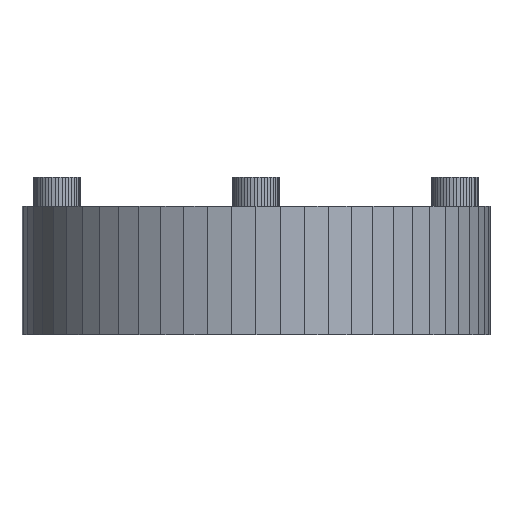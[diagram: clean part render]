
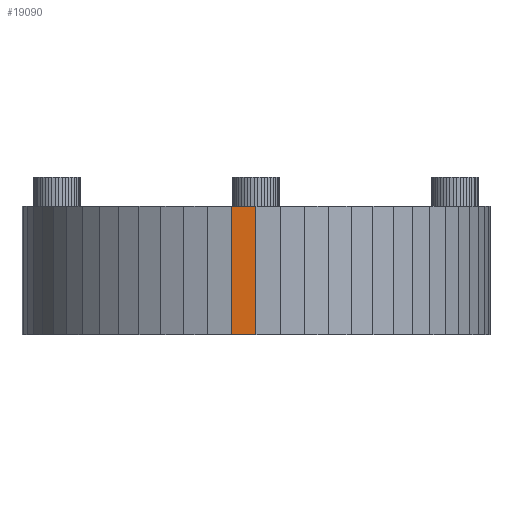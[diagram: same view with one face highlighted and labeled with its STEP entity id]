
A CAD part, left-side view. The second image highlights one B-rep face of the part: STEP entity #19090.
In plain terms, the highlighted planar face has unit normal (-0.999, 0.052, 0).
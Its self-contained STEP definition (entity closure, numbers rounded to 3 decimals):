
#126 = PLANE('',#127);
#127 = AXIS2_PLACEMENT_3D('',#128,#129,#130);
#128 = CARTESIAN_POINT('',(0.326,-16.638,0.));
#129 = DIRECTION('',(0.,0.,1.));
#130 = DIRECTION('',(1.,0.,-0.));
#18974 = PLANE('',#18975);
#18975 = AXIS2_PLACEMENT_3D('',#18976,#18977,#18978);
#18976 = CARTESIAN_POINT('',(0.151,-15.398,-22.));
#18977 = DIRECTION('',(-0.,-0.,-1.));
#18978 = DIRECTION('',(-1.,0.,0.));
#19090 = ADVANCED_FACE('',(#19091),#19105,.T.);
#19091 = FACE_BOUND('',#19092,.T.);
#19092 = EDGE_LOOP('',(#19093,#19128,#19151,#19179));
#19093 = ORIENTED_EDGE('',*,*,#19094,.T.);
#19094 = EDGE_CURVE('',#19095,#19097,#19099,.T.);
#19095 = VERTEX_POINT('',#19096);
#19096 = CARTESIAN_POINT('',(-39.781,4.181,0.));
#19097 = VERTEX_POINT('',#19098);
#19098 = CARTESIAN_POINT('',(-39.781,4.181,-22.));
#19099 = SURFACE_CURVE('',#19100,(#19104,#19116),.PCURVE_S1.);
#19100 = LINE('',#19101,#19102);
#19101 = CARTESIAN_POINT('',(-39.781,4.181,0.));
#19102 = VECTOR('',#19103,1.);
#19103 = DIRECTION('',(0.,0.,-1.));
#19104 = PCURVE('',#19105,#19110);
#19105 = PLANE('',#19106);
#19106 = AXIS2_PLACEMENT_3D('',#19107,#19108,#19109);
#19107 = CARTESIAN_POINT('',(-39.841,3.037,
    -11.948));
#19108 = DIRECTION('',(-0.999,0.052,-0.));
#19109 = DIRECTION('',(-0.052,-0.999,0.));
#19110 = DEFINITIONAL_REPRESENTATION('',(#19111),#19115);
#19111 = LINE('',#19112,#19113);
#19112 = CARTESIAN_POINT('',(-1.145,11.948));
#19113 = VECTOR('',#19114,1.);
#19114 = DIRECTION('',(-0.,-1.));
#19115 = ( GEOMETRIC_REPRESENTATION_CONTEXT(2) 
PARAMETRIC_REPRESENTATION_CONTEXT() REPRESENTATION_CONTEXT('2D SPACE',''
  ) );
#19116 = PCURVE('',#19117,#19122);
#19117 = PLANE('',#19118);
#19118 = AXIS2_PLACEMENT_3D('',#19119,#19120,#19121);
#19119 = CARTESIAN_POINT('',(-39.305,7.185,
    -11.948));
#19120 = DIRECTION('',(-0.988,0.156,-0.));
#19121 = DIRECTION('',(-0.156,-0.988,0.));
#19122 = DEFINITIONAL_REPRESENTATION('',(#19123),#19127);
#19123 = LINE('',#19124,#19125);
#19124 = CARTESIAN_POINT('',(3.041,11.948));
#19125 = VECTOR('',#19126,1.);
#19126 = DIRECTION('',(-0.,-1.));
#19127 = ( GEOMETRIC_REPRESENTATION_CONTEXT(2) 
PARAMETRIC_REPRESENTATION_CONTEXT() REPRESENTATION_CONTEXT('2D SPACE',''
  ) );
#19128 = ORIENTED_EDGE('',*,*,#19129,.F.);
#19129 = EDGE_CURVE('',#19130,#19097,#19132,.T.);
#19130 = VERTEX_POINT('',#19131);
#19131 = CARTESIAN_POINT('',(-40.,0.,-22.));
#19132 = SURFACE_CURVE('',#19133,(#19137,#19144),.PCURVE_S1.);
#19133 = LINE('',#19134,#19135);
#19134 = CARTESIAN_POINT('',(-40.,0.,-22.));
#19135 = VECTOR('',#19136,1.);
#19136 = DIRECTION('',(0.052,0.999,0.));
#19137 = PCURVE('',#19105,#19138);
#19138 = DEFINITIONAL_REPRESENTATION('',(#19139),#19143);
#19139 = LINE('',#19140,#19141);
#19140 = CARTESIAN_POINT('',(3.041,-10.052));
#19141 = VECTOR('',#19142,1.);
#19142 = DIRECTION('',(-1.,0.));
#19143 = ( GEOMETRIC_REPRESENTATION_CONTEXT(2) 
PARAMETRIC_REPRESENTATION_CONTEXT() REPRESENTATION_CONTEXT('2D SPACE',''
  ) );
#19144 = PCURVE('',#18974,#19145);
#19145 = DEFINITIONAL_REPRESENTATION('',(#19146),#19150);
#19146 = LINE('',#19147,#19148);
#19147 = CARTESIAN_POINT('',(40.151,15.398));
#19148 = VECTOR('',#19149,1.);
#19149 = DIRECTION('',(-0.052,0.999));
#19150 = ( GEOMETRIC_REPRESENTATION_CONTEXT(2) 
PARAMETRIC_REPRESENTATION_CONTEXT() REPRESENTATION_CONTEXT('2D SPACE',''
  ) );
#19151 = ORIENTED_EDGE('',*,*,#19152,.T.);
#19152 = EDGE_CURVE('',#19130,#19153,#19155,.T.);
#19153 = VERTEX_POINT('',#19154);
#19154 = CARTESIAN_POINT('',(-40.,0.,0.));
#19155 = SURFACE_CURVE('',#19156,(#19160,#19167),.PCURVE_S1.);
#19156 = LINE('',#19157,#19158);
#19157 = CARTESIAN_POINT('',(-40.,0.,-22.));
#19158 = VECTOR('',#19159,1.);
#19159 = DIRECTION('',(0.,0.,1.));
#19160 = PCURVE('',#19105,#19161);
#19161 = DEFINITIONAL_REPRESENTATION('',(#19162),#19166);
#19162 = LINE('',#19163,#19164);
#19163 = CARTESIAN_POINT('',(3.041,-10.052));
#19164 = VECTOR('',#19165,1.);
#19165 = DIRECTION('',(0.,1.));
#19166 = ( GEOMETRIC_REPRESENTATION_CONTEXT(2) 
PARAMETRIC_REPRESENTATION_CONTEXT() REPRESENTATION_CONTEXT('2D SPACE',''
  ) );
#19167 = PCURVE('',#19168,#19173);
#19168 = PLANE('',#19169);
#19169 = AXIS2_PLACEMENT_3D('',#19170,#19171,#19172);
#19170 = CARTESIAN_POINT('',(-39.94,-1.144,
    -11.948));
#19171 = DIRECTION('',(-0.999,-0.052,-0.));
#19172 = DIRECTION('',(0.052,-0.999,0.));
#19173 = DEFINITIONAL_REPRESENTATION('',(#19174),#19178);
#19174 = LINE('',#19175,#19176);
#19175 = CARTESIAN_POINT('',(-1.145,-10.052));
#19176 = VECTOR('',#19177,1.);
#19177 = DIRECTION('',(0.,1.));
#19178 = ( GEOMETRIC_REPRESENTATION_CONTEXT(2) 
PARAMETRIC_REPRESENTATION_CONTEXT() REPRESENTATION_CONTEXT('2D SPACE',''
  ) );
#19179 = ORIENTED_EDGE('',*,*,#19180,.F.);
#19180 = EDGE_CURVE('',#19095,#19153,#19181,.T.);
#19181 = SURFACE_CURVE('',#19182,(#19186,#19193),.PCURVE_S1.);
#19182 = LINE('',#19183,#19184);
#19183 = CARTESIAN_POINT('',(-39.781,4.181,0.));
#19184 = VECTOR('',#19185,1.);
#19185 = DIRECTION('',(-0.052,-0.999,0.));
#19186 = PCURVE('',#19105,#19187);
#19187 = DEFINITIONAL_REPRESENTATION('',(#19188),#19192);
#19188 = LINE('',#19189,#19190);
#19189 = CARTESIAN_POINT('',(-1.145,11.948));
#19190 = VECTOR('',#19191,1.);
#19191 = DIRECTION('',(1.,0.));
#19192 = ( GEOMETRIC_REPRESENTATION_CONTEXT(2) 
PARAMETRIC_REPRESENTATION_CONTEXT() REPRESENTATION_CONTEXT('2D SPACE',''
  ) );
#19193 = PCURVE('',#126,#19194);
#19194 = DEFINITIONAL_REPRESENTATION('',(#19195),#19199);
#19195 = LINE('',#19196,#19197);
#19196 = CARTESIAN_POINT('',(-40.107,20.819));
#19197 = VECTOR('',#19198,1.);
#19198 = DIRECTION('',(-0.052,-0.999));
#19199 = ( GEOMETRIC_REPRESENTATION_CONTEXT(2) 
PARAMETRIC_REPRESENTATION_CONTEXT() REPRESENTATION_CONTEXT('2D SPACE',''
  ) );
